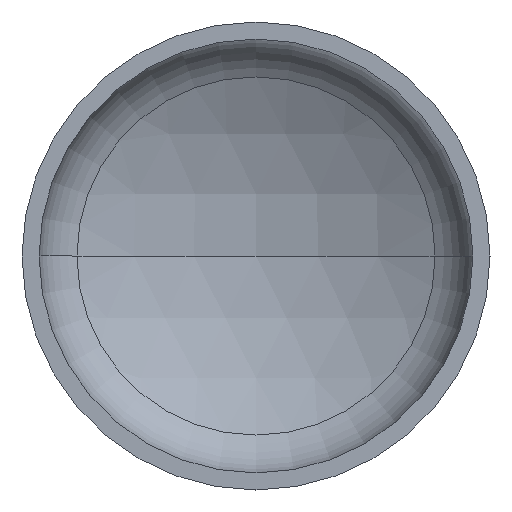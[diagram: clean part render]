
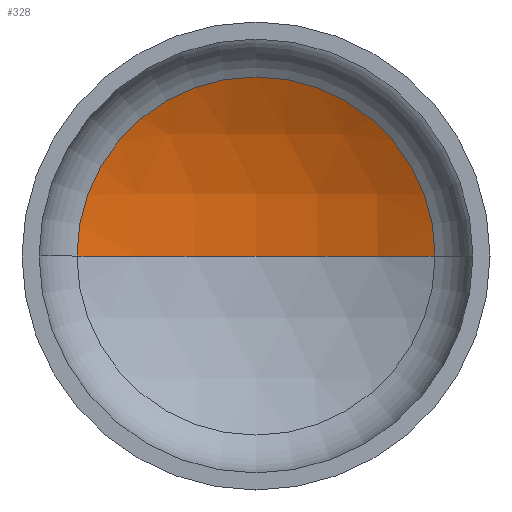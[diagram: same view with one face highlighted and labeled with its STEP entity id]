
A CAD part, front view. The second image highlights one B-rep face of the part: STEP entity #328.
In plain terms, the highlighted spherical face has radius 175 mm.
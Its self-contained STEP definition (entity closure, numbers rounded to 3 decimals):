
#5 = SPHERICAL_SURFACE ( 'NONE', #368, 175. ) ;
#22 = ORIENTED_EDGE ( 'NONE', *, *, #99, .T. ) ;
#36 = FACE_OUTER_BOUND ( 'NONE', #109, .T. ) ;
#38 = EDGE_CURVE ( 'NONE', #60, #243, #223, .T. ) ;
#49 = VERTEX_POINT ( 'NONE', #201 ) ;
#60 = VERTEX_POINT ( 'NONE', #270 ) ;
#99 = EDGE_CURVE ( 'NONE', #49, #60, #121, .T. ) ;
#105 = ORIENTED_EDGE ( 'NONE', *, *, #38, .T. ) ;
#107 = EDGE_CURVE ( 'NONE', #49, #243, #385, .T. ) ;
#109 = EDGE_LOOP ( 'NONE', ( #141, #22, #105 ) ) ;
#110 = CARTESIAN_POINT ( 'NONE',  ( 0., -98.766, 0. ) ) ;
#121 = CIRCLE ( 'NONE', #130, 175. ) ;
#130 = AXIS2_PLACEMENT_3D ( 'NONE', #278, #275, #273 ) ;
#135 = DIRECTION ( 'NONE',  ( -1., 0., 0. ) ) ;
#141 = ORIENTED_EDGE ( 'NONE', *, *, #107, .F. ) ;
#150 = CARTESIAN_POINT ( 'NONE',  ( -83.839, 54.844, 0. ) ) ;
#164 = AXIS2_PLACEMENT_3D ( 'NONE', #237, #177, #171 ) ;
#171 = DIRECTION ( 'NONE',  ( 1., 0., 0. ) ) ;
#177 = DIRECTION ( 'NONE',  ( 0., 0., 1. ) ) ;
#201 = CARTESIAN_POINT ( 'NONE',  ( 0., 76.234, 0. ) ) ;
#212 = DIRECTION ( 'NONE',  ( 0., -1., 0. ) ) ;
#215 = DIRECTION ( 'NONE',  ( 1., 0., 0. ) ) ;
#217 = CARTESIAN_POINT ( 'NONE',  ( 0., 54.844, 0. ) ) ;
#223 = CIRCLE ( 'NONE', #380, 83.839 ) ;
#237 = CARTESIAN_POINT ( 'NONE',  ( 0., -98.766, 0. ) ) ;
#243 = VERTEX_POINT ( 'NONE', #150 ) ;
#270 = CARTESIAN_POINT ( 'NONE',  ( 83.839, 54.844, 0. ) ) ;
#273 = DIRECTION ( 'NONE',  ( -1., 0., 0. ) ) ;
#275 = DIRECTION ( 'NONE',  ( 0., 0., -1. ) ) ;
#278 = CARTESIAN_POINT ( 'NONE',  ( 0., -98.766, 0. ) ) ;
#328 = ADVANCED_FACE ( 'NONE', ( #36 ), #5, .F. ) ;
#368 = AXIS2_PLACEMENT_3D ( 'NONE', #110, #383, #135 ) ;
#380 = AXIS2_PLACEMENT_3D ( 'NONE', #217, #212, #215 ) ;
#383 = DIRECTION ( 'NONE',  ( 0., 0., -1. ) ) ;
#385 = CIRCLE ( 'NONE', #164, 175. ) ;
